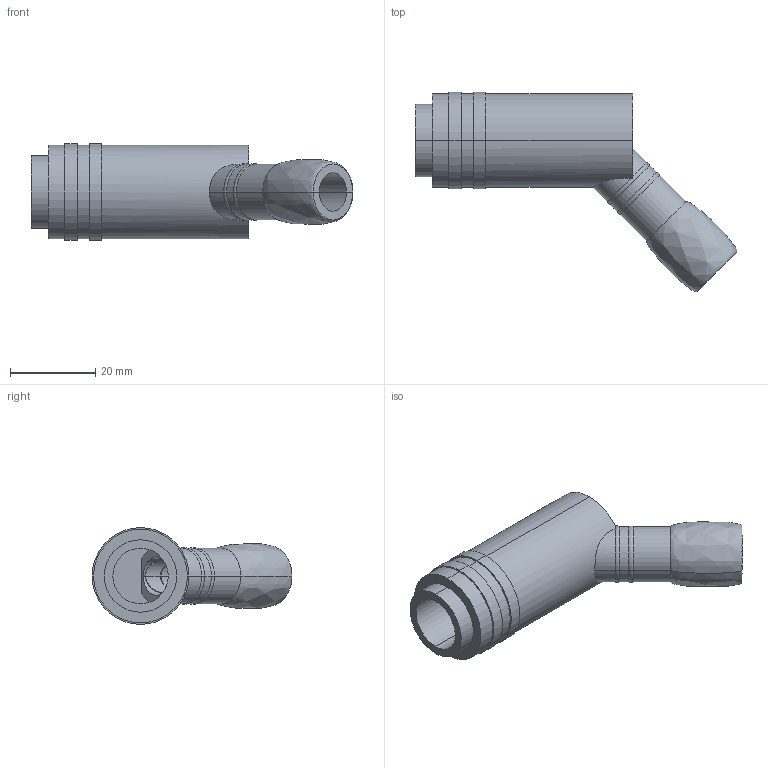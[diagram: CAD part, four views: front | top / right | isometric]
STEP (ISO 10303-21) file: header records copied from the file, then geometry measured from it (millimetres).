
FILE_DESCRIPTION (( 'STEP AP214' ), '1' );
FILE_NAME ('BR801-13-45.STEP', '2020-06-22T14:44:45', ( '' ), ( '' ), 'SwSTEP 2.0', 'SolidWorks 2018', '' );
FILE_SCHEMA (( 'AUTOMOTIVE_DESIGN' ));
Length unit declared in the file: millimetre
Products named in the file (1): BR801-13-45
Bounding box: 75.5 x 46.85 x 22.71 mm (x, y, z)
Volume: 15247.2 mm3; surface area: 8605.7 mm2
Topology: 1 solids, 1 shells, 48 faces, 113 edges, 71 vertices
Faces by surface type: cylinder 29, plane 11, torus 4, bspline 2, cone 2
Entity records: 1642 total; most frequent: CARTESIAN_POINT 531, DIRECTION 234, ORIENTED_EDGE 226, EDGE_CURVE 113, AXIS2_PLACEMENT_3D 104, VERTEX_POINT 71, CIRCLE 57, EDGE_LOOP 54
